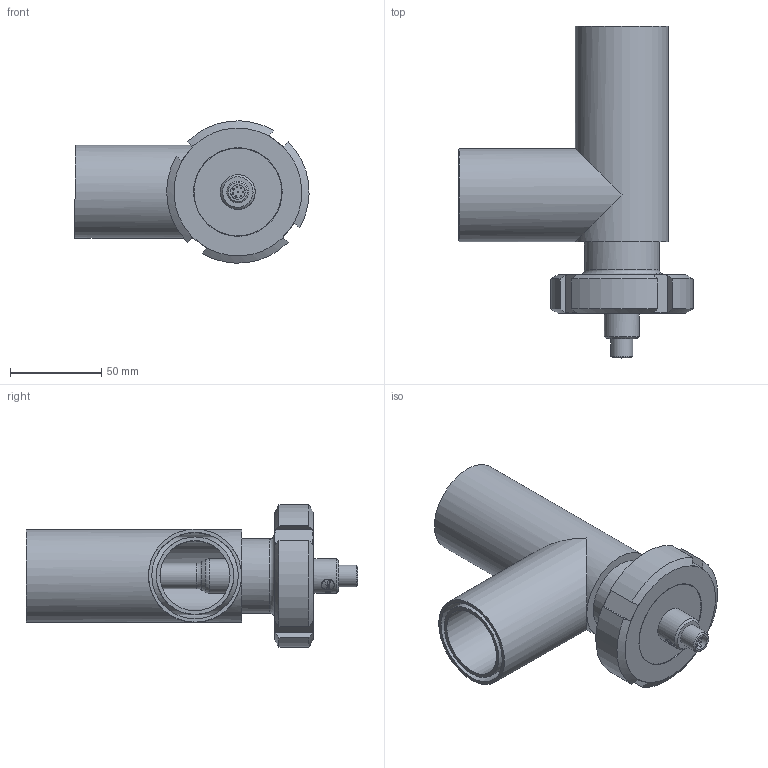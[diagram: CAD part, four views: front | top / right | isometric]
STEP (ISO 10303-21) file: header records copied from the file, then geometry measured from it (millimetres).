
FILE_DESCRIPTION(/* description */ ('Unknown'),/* implementation_level */ '2;1');
FILE_NAME(/* name */ 'SRV-SLP-A123-BH40_Jacketed-Elbow',/* time_stamp */ '2023-10-26T14:05:03-05:00',/* author */ ('Unknown'),/* organization */ ('Unknown'),/* preprocessor_version */ 'ST-DEVELOPER v16.7',/* originating_system */ 'Solid Edge',/* authorisation */ 'Unknown');
FILE_SCHEMA (('AUTOMOTIVE_DESIGN {1 0 10303 214 3 1 1}'));
Length unit declared in the file: millimetre
Products named in the file (5): SRV_DIN11851-1.5_Double-jacketed-elbow-1.5in; SRV-SLP-A123-BH40; BH40-Nut; BH40-Seal; BH40-Jacketed-Elbow
Assembly tree (4 placements, depth 2):
  SRV_DIN11851-1.5_Double-jacketed-elbow-1.5in
    SRV-SLP-A123-BH40
    BH40-Nut
    BH40-Seal
    BH40-Jacketed-Elbow
Bounding box: 128.23 x 181.74 x 77.96 mm (x, y, z)
Volume: 210360.4 mm3; surface area: 145294.1 mm2
Topology: 4 solids, 4 shells, 233 faces, 584 edges, 383 vertices
Faces by surface type: bspline 72, plane 60, cylinder 59, cone 26, torus 8, sphere 8
Full cylindrical faces by diameter (mm): 0.8 x8, 5.019 x1, 8 x2, 12 x1, 13.9 x1, 19 x2, 38.4 x2, 38.5 x1, 41 x1, 42 x2, 42.4 x2, 47.4 x2, 48 x1, 48.5 x1, 50.951 x2, 51.8 x1, 52 x1, 61.19 x1, 65 x1, 66 x1
Entity records: 11462 total; most frequent: CARTESIAN_POINT 5364, ORIENTED_EDGE 950, DIRECTION 760, EDGE_CURVE 475, VERTEX_POINT 344, EDGE_LOOP 337, FACE_BOUND 337, AXIS2_PLACEMENT_3D 310
